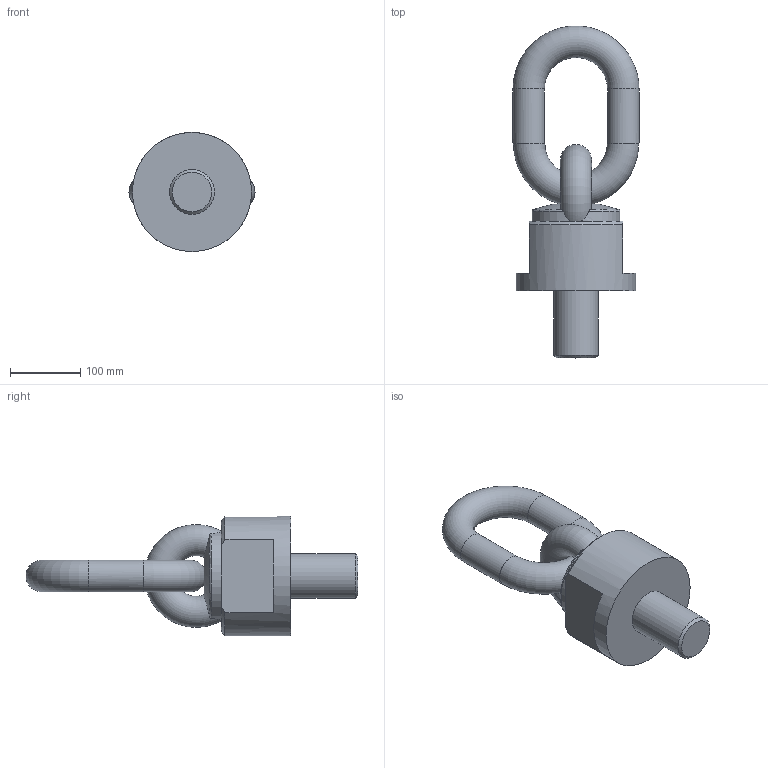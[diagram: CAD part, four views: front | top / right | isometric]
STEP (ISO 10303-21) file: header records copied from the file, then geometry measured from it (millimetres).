
FILE_DESCRIPTION( ( 'STEP AP203' ), '1' );
FILE_NAME( 'p:/temp/worker_24/temp/app_56_0201906261458077600755110e898ce_000000_00_00_000000/format_0/C800X2806496.stp', '2019-06-26T12:58:08', ( '' ), ( '' ), ' ', 'PARTsolutions', ' ' );
FILE_SCHEMA( ( 'CONFIG_CONTROL_DESIGN' ) );
Length unit declared in the file: millimetre
Products named in the file (1): _C800X2806496
Bounding box: 180 x 473.89 x 170 mm (x, y, z)
Volume: 3847266.8 mm3; surface area: 225199 mm2
Topology: 1 solids, 1 shells, 28 faces, 70 edges, 44 vertices
Faces by surface type: plane 12, cylinder 6, torus 5, cone 5
Full cylindrical faces by diameter (mm): 45 x2, 64 x1, 170 x1
Entity records: 1289 total; most frequent: CARTESIAN_POINT 639, DIRECTION 122, ORIENTED_EDGE 116, EDGE_CURVE 58, AXIS2_PLACEMENT_3D 57, EDGE_LOOP 42, VERTEX_POINT 41, FACE_OUTER_BOUND 35
